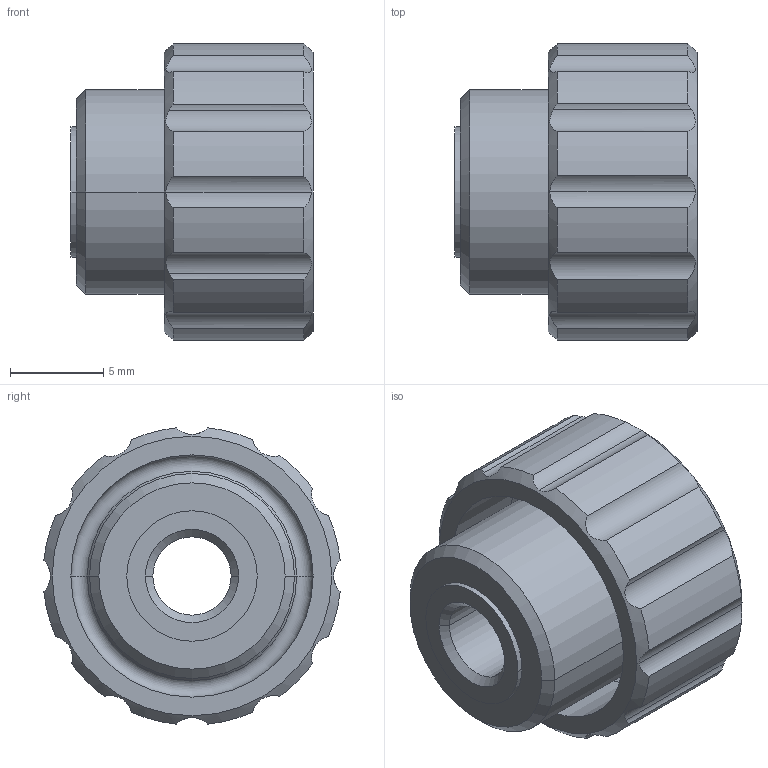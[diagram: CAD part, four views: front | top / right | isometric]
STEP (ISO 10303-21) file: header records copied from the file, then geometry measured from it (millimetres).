
FILE_DESCRIPTION (( 'STEP AP214' ), '1' );
FILE_NAME ('590-16-M5-D-ESD.step', '2025-06-16T12:57:11', ( '' ), ( '' ), 'SwSTEP 2.0', 'SolidWorks 2022', '' );
FILE_SCHEMA (( 'AUTOMOTIVE_DESIGN' ));
Length unit declared in the file: millimetre
Products named in the file (1): 590-16-M5-D-ESD
Bounding box: 13 x 15.91 x 15.91 mm (x, y, z)
Volume: 1442.1 mm3; surface area: 1442.7 mm2
Topology: 1 solids, 1 shells, 61 faces, 151 edges, 96 vertices
Faces by surface type: cylinder 41, cone 12, plane 6, torus 2
Entity records: 2145 total; most frequent: CARTESIAN_POINT 585, ORIENTED_EDGE 302, DIRECTION 301, EDGE_CURVE 151, AXIS2_PLACEMENT_3D 124, VERTEX_POINT 96, EDGE_LOOP 67, CIRCLE 62
